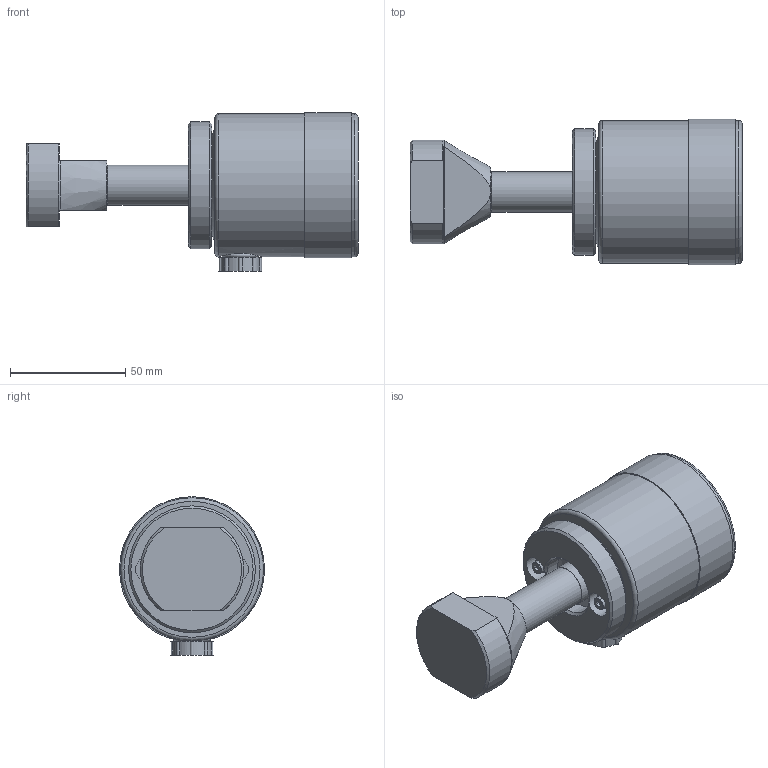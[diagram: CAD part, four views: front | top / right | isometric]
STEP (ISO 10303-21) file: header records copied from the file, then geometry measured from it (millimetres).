
FILE_DESCRIPTION(/* description */ (''),/* implementation_level */ '2;1');
FILE_NAME(/* name */ 'S:\EASCN Vault\Designs\Standard Part\MOULDCLAMPS\MHC\MHC-50\MHC50-22-XX_(20200410).stp',/* time_stamp */ '2020-04-10T13:12:16+08:00',/* author */ ('yue.yang'),/* organization */ (''),/* preprocessor_version */ 'ST-DEVELOPER v17',/* originating_system */ 'Autodesk Inventor 2019',/* authorisation */ '');
FILE_SCHEMA (('AUTOMOTIVE_DESIGN { 1 0 10303 214 3 1 1 }'));
Length unit declared in the file: millimetre
Products named in the file (1): MHC50-22-XX_Shrinkwrap_1
Bounding box: 144 x 63 x 68.8 mm (x, y, z)
Volume: 289709.7 mm3; surface area: 47287.1 mm2
Topology: 11 solids, 11 shells, 134 faces, 351 edges, 245 vertices
Faces by surface type: plane 53, cylinder 49, cone 23, torus 7, sphere 2
Full cylindrical faces by diameter (mm): 3 x2, 4.2 x2, 5.5 x2, 6 x2, 7 x2, 10.8 x1, 11 x2, 11.445 x1, 13.157 x1, 13.5 x1, 14.1 x1, 16 x2, 17.5 x1, 17.95 x1, 19 x1, 26 x1, 36.8 x1, 50 x1, 55 x1, 62 x2, 63 x1
Entity records: 4644 total; most frequent: CARTESIAN_POINT 992, DIRECTION 772, ORIENTED_EDGE 694, EDGE_CURVE 347, AXIS2_PLACEMENT_3D 335, VERTEX_POINT 245, CIRCLE 200, EDGE_LOOP 156
